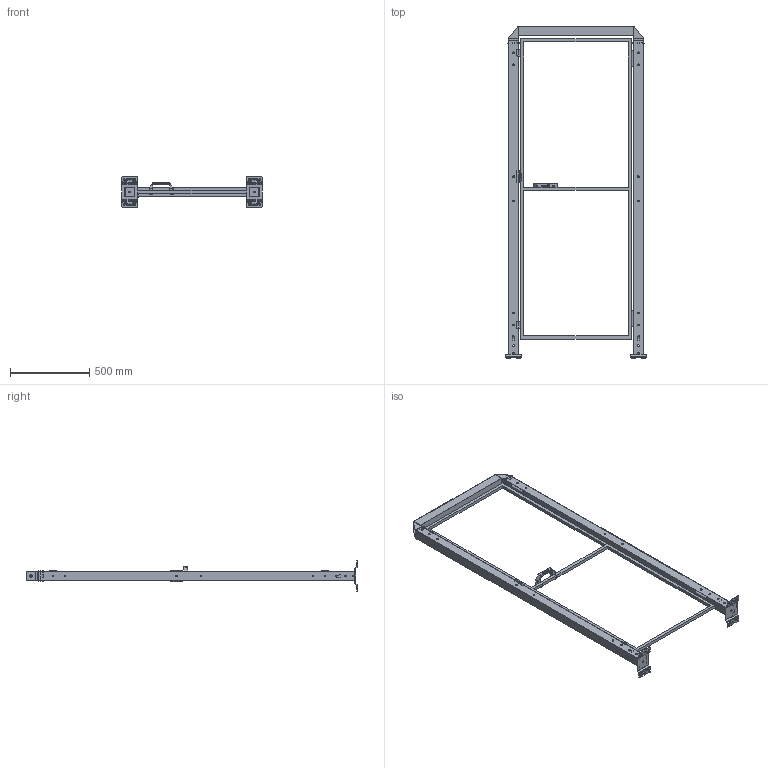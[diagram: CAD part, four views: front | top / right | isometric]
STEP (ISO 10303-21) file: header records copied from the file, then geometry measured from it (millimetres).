
FILE_DESCRIPTION(('STEP AP242'),'1');
FILE_NAME('vfda_bscndr2_07002020.stp','2025-01-23T12:19:14',('TraceParts'),('TraceParts S.A.'),'Spatial InterOp 3D',' ',' ');
FILE_SCHEMA(('AP242_MANAGED_MODEL_BASED_3D_ENGINEERING_MIM_LF {1 0 10303 442 1 1 4}'));
Length unit declared in the file: millimetre
Products named in the file (1): vfda_bscndr2_07002020_1
Bounding box: 890 x 2101 x 192 mm (x, y, z)
Volume: 4413632.7 mm3; surface area: 2928036.2 mm2
Topology: 12 solids, 12 shells, 1874 faces, 5016 edges, 3212 vertices
Faces by surface type: plane 906, cylinder 628, bspline 236, cone 60, torus 40, sphere 4
Entity records: 75648 total; most frequent: CARTESIAN_POINT 13827, ORIENTED_EDGE 10024, DIRECTION 9202, EDGE_CURVE 5012, VERTEX_POINT 3212, LINE 3072, VECTOR 3072, AXIS2_PLACEMENT_3D 3065
